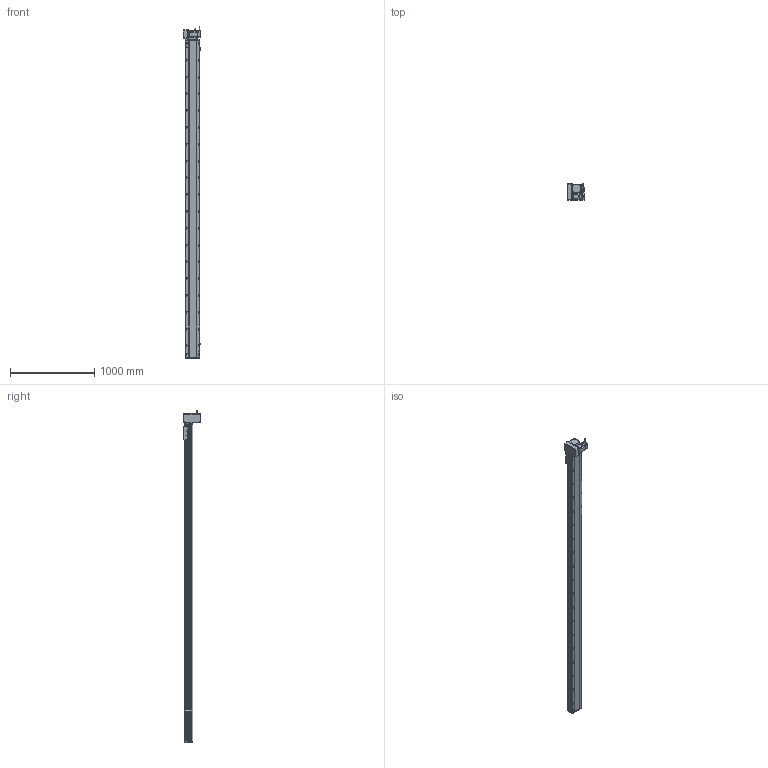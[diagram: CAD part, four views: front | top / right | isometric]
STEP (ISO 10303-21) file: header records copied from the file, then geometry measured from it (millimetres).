
FILE_DESCRIPTION (( 'STEP AP214' ), '1' );
FILE_NAME ('RTB17S-XX-3500-LM-M75-C4.STEP', '2025-12-12T00:52:40', ( '' ), ( '' ), 'SwSTEP 2.0', 'SolidWorks 2018', '' );
FILE_SCHEMA (( 'AUTOMOTIVE_DESIGN' ));
Length unit declared in the file: millimetre
Products named in the file (15): RTB17S-賑釱^RTB17S-XX-XX-LM-M75-C4; RTH13-BL-012覜茼え俋离^RTB17S-賑釱_RTB17S-XX-XX-LM-M75-C4; RTB22S-GY-018P^RTB17S-LM-々湍釱蚾饜-750W_RTB17S-XX-XX-LM-M75-C4; RTB17S-XX-3500-LM-M75-C4; RTB17S-L-004-賑釱^RTB17S-賑釱_RTB17S-XX-XX-LM-M75-C4; RTB22S-GY-005P^RTB17S-LM-々湍釱蚾饜-750W_RTB17S-XX-XX-LM-M75-C4; RTB17S-L-001-耜醱啣^RTB17S-XX-XX-LM-M75-C4; RTB17-R-011菁釱^RTB17S-XX-XX-LM-M75-C4; RTB17S-LM-々湍釱蚾饜-750W^RTB17S-XX-XX-LM-M75-C4; RTB22S-GY-017P^RTB17S-LM-々湍釱蚾饜-750W_RTB17S-XX-XX-LM-M75-C4; RTB22S-GY-008-M75--萇儂啣^RTB17S-LM-々湍釱蚾饜-750W_RTB17S-XX-XX-LM-M75-C4; EE672^RTB17S-XX-XX-LM-M75-C4; RTB17S-L-014-T20-P75--々湍釱^RTB17S-LM-々湍釱蚾饜-750W_RTB17S-XX-XX-LM-M75-C4; RTB17S-L-007奻裔^RTB17S-XX-XX-LM-M75-C4; 750W萇儂^RTB17S-XX-XX-LM-M75-C4
Assembly tree (17 placements, depth 3):
  RTB17S-XX-3500-LM-M75-C4
    RTB17-R-011菁釱^RTB17S-XX-XX-LM-M75-C4
    EE672^RTB17S-XX-XX-LM-M75-C4  x3
    RTB17S-L-001-耜醱啣^RTB17S-XX-XX-LM-M75-C4
    RTB17S-賑釱^RTB17S-XX-XX-LM-M75-C4
      RTB17S-L-004-賑釱^RTB17S-賑釱_RTB17S-XX-XX-LM-M75-C4
      RTH13-BL-012覜茼え俋离^RTB17S-賑釱_RTB17S-XX-XX-LM-M75-C4
    RTB17S-L-007奻裔^RTB17S-XX-XX-LM-M75-C4
    750W萇儂^RTB17S-XX-XX-LM-M75-C4
    RTB17S-LM-々湍釱蚾饜-750W^RTB17S-XX-XX-LM-M75-C4
      RTB17S-L-014-T20-P75--々湍釱^RTB17S-LM-々湍釱蚾饜-750W_RTB17S-XX-XX-LM-M75-C4
      RTB22S-GY-005P^RTB17S-LM-々湍釱蚾饜-750W_RTB17S-XX-XX-LM-M75-C4
      RTB22S-GY-017P^RTB17S-LM-々湍釱蚾饜-750W_RTB17S-XX-XX-LM-M75-C4  x2
      RTB22S-GY-008-M75--萇儂啣^RTB17S-LM-々湍釱蚾饜-750W_RTB17S-XX-XX-LM-M75-C4
      RTB22S-GY-018P^RTB17S-LM-々湍釱蚾饜-750W_RTB17S-XX-XX-LM-M75-C4
Bounding box: 210.4 x 200 x 3952.2 mm (x, y, z)
Volume: 27826415.1 mm3; surface area: 5142641.4 mm2
Topology: 17 solids, 17 shells, 2297 faces, 6484 edges, 4202 vertices
Faces by surface type: plane 996, cylinder 885, bspline 294, cone 110, sphere 8, torus 4
Entity records: 68086 total; most frequent: CARTESIAN_POINT 20348, ORIENTED_EDGE 9812, DIRECTION 9032, EDGE_CURVE 4906, AXIS2_PLACEMENT_3D 3222, VERTEX_POINT 3206, VECTOR 2588, LINE 2588
